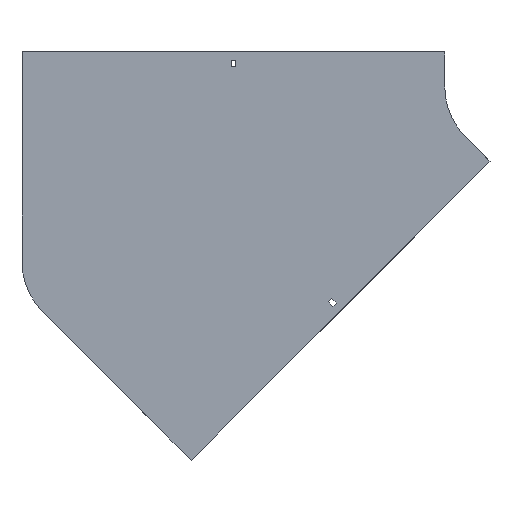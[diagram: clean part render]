
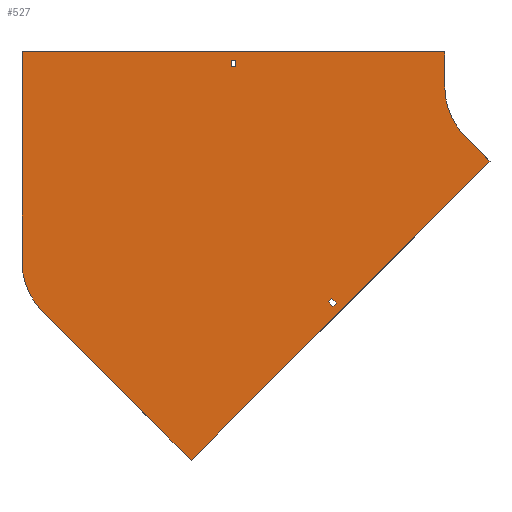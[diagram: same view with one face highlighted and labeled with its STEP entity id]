
A CAD part, front view. The second image highlights one B-rep face of the part: STEP entity #527.
In plain terms, the highlighted planar face has unit normal (0, -1, 0).
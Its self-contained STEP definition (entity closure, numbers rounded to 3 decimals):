
#15 = LINE ( 'NONE', #1210, #1456 ) ;
#23 = DIRECTION ( 'NONE',  ( 1., 0., 0. ) ) ;
#25 = DIRECTION ( 'NONE',  ( 0., 0., -1. ) ) ;
#28 = EDGE_CURVE ( 'NONE', #727, #86, #1574, .T. ) ;
#34 = EDGE_CURVE ( 'NONE', #213, #205, #937, .T. ) ;
#38 = VERTEX_POINT ( 'NONE', #185 ) ;
#43 = LINE ( 'NONE', #328, #209 ) ;
#63 = LINE ( 'NONE', #663, #1113 ) ;
#86 = VERTEX_POINT ( 'NONE', #1171 ) ;
#110 = ORIENTED_EDGE ( 'NONE', *, *, #243, .F. ) ;
#160 = ORIENTED_EDGE ( 'NONE', *, *, #1784, .F. ) ;
#168 = ORIENTED_EDGE ( 'NONE', *, *, #907, .F. ) ;
#185 = CARTESIAN_POINT ( 'NONE',  ( -35.355, 0., -106.066 ) ) ;
#202 = CARTESIAN_POINT ( 'NONE',  ( -398.75, 0., 38. ) ) ;
#205 = VERTEX_POINT ( 'NONE', #1333 ) ;
#209 = VECTOR ( 'NONE', #1269, 1000. ) ;
#213 = VERTEX_POINT ( 'NONE', #613 ) ;
#231 = DIRECTION ( 'NONE',  ( -1., 0., 0. ) ) ;
#243 = EDGE_CURVE ( 'NONE', #38, #787, #1041, .T. ) ;
#252 = DIRECTION ( 'NONE',  ( 0., 0., -1. ) ) ;
#288 = DIRECTION ( 'NONE',  ( -0.707, 0., -0.707 ) ) ;
#315 = CARTESIAN_POINT ( 'NONE',  ( -604., 0., -250.185 ) ) ;
#327 = CARTESIAN_POINT ( 'NONE',  ( -704., 0., -250.185 ) ) ;
#328 = CARTESIAN_POINT ( 'NONE',  ( -398.75, 0., 29. ) ) ;
#333 = VECTOR ( 'NONE', #25, 1000. ) ;
#353 = ORIENTED_EDGE ( 'NONE', *, *, #526, .F. ) ;
#360 = EDGE_CURVE ( 'NONE', #906, #455, #43, .T. ) ;
#363 = VERTEX_POINT ( 'NONE', #633 ) ;
#379 = FACE_OUTER_BOUND ( 'NONE', #1042, .T. ) ;
#390 = DIRECTION ( 'NONE',  ( 0.707, 0., -0.707 ) ) ;
#400 = CARTESIAN_POINT ( 'NONE',  ( 0., 0., 0. ) ) ;
#410 = LINE ( 'NONE', #844, #1019 ) ;
#428 = CARTESIAN_POINT ( 'NONE',  ( -405.25, 0., 38. ) ) ;
#429 = ORIENTED_EDGE ( 'NONE', *, *, #612, .F. ) ;
#455 = VERTEX_POINT ( 'NONE', #1278 ) ;
#480 = LINE ( 'NONE', #1685, #1487 ) ;
#489 = DIRECTION ( 'NONE',  ( -0.707, 0., 0.707 ) ) ;
#503 = EDGE_CURVE ( 'NONE', #455, #805, #1761, .T. ) ;
#523 = PLANE ( 'NONE',  #1833 ) ;
#526 = EDGE_CURVE ( 'NONE', #205, #1951, #1582, .T. ) ;
#527 = ADVANCED_FACE ( 'NONE', ( #854, #379, #1875 ), #523, .T. ) ;
#532 = VECTOR ( 'NONE', #1286, 1000. ) ;
#534 = LINE ( 'NONE', #1139, #1303 ) ;
#546 = CIRCLE ( 'NONE', #1425, 100. ) ;
#552 = DIRECTION ( 'NONE',  ( 1., 0., 0. ) ) ;
#573 = AXIS2_PLACEMENT_3D ( 'NONE', #400, #1731, #252 ) ;
#580 = ORIENTED_EDGE ( 'NONE', *, *, #28, .F. ) ;
#612 = EDGE_CURVE ( 'NONE', #1951, #38, #480, .T. ) ;
#613 = CARTESIAN_POINT ( 'NONE',  ( -100., 0., 50. ) ) ;
#619 = ORIENTED_EDGE ( 'NONE', *, *, #1078, .T. ) ;
#633 = CARTESIAN_POINT ( 'NONE',  ( -704., 0., -250.185 ) ) ;
#663 = CARTESIAN_POINT ( 'NONE',  ( -462.448, 0., -533.159 ) ) ;
#664 = ORIENTED_EDGE ( 'NONE', *, *, #360, .T. ) ;
#701 = LINE ( 'NONE', #1779, #532 ) ;
#712 = ORIENTED_EDGE ( 'NONE', *, *, #34, .F. ) ;
#727 = VERTEX_POINT ( 'NONE', #983 ) ;
#736 = EDGE_CURVE ( 'NONE', #1589, #1180, #534, .T. ) ;
#786 = VECTOR ( 'NONE', #552, 1000. ) ;
#787 = VERTEX_POINT ( 'NONE', #1684 ) ;
#805 = VERTEX_POINT ( 'NONE', #1384 ) ;
#812 = DIRECTION ( 'NONE',  ( -0.707, 0., 0.707 ) ) ;
#831 = LINE ( 'NONE', #428, #786 ) ;
#832 = EDGE_CURVE ( 'NONE', #1707, #213, #15, .T. ) ;
#844 = CARTESIAN_POINT ( 'NONE',  ( -405.25, 0., 29. ) ) ;
#854 = FACE_BOUND ( 'NONE', #862, .T. ) ;
#862 = EDGE_LOOP ( 'NONE', ( #619, #1184, #664, #1725 ) ) ;
#906 = VERTEX_POINT ( 'NONE', #202 ) ;
#907 = EDGE_CURVE ( 'NONE', #787, #948, #63, .T. ) ;
#932 = DIRECTION ( 'NONE',  ( 0., 0., 1. ) ) ;
#937 = LINE ( 'NONE', #1085, #333 ) ;
#948 = VERTEX_POINT ( 'NONE', #955 ) ;
#955 = CARTESIAN_POINT ( 'NONE',  ( -674.711, 0., -320.896 ) ) ;
#983 = CARTESIAN_POINT ( 'NONE',  ( -255.089, 0., -308.829 ) ) ;
#1010 = CARTESIAN_POINT ( 'NONE',  ( -259.685, 0., -313.425 ) ) ;
#1019 = VECTOR ( 'NONE', #1445, 1000. ) ;
#1029 = CARTESIAN_POINT ( 'NONE',  ( -405.25, 0., 38. ) ) ;
#1041 = LINE ( 'NONE', #1643, #1534 ) ;
#1042 = EDGE_LOOP ( 'NONE', ( #1735, #1600, #1892, #168, #110, #429, #353, #712 ) ) ;
#1078 = EDGE_CURVE ( 'NONE', #805, #1359, #410, .T. ) ;
#1085 = CARTESIAN_POINT ( 'NONE',  ( -100., 0., 50. ) ) ;
#1109 = VECTOR ( 'NONE', #231, 1000. ) ;
#1112 = ORIENTED_EDGE ( 'NONE', *, *, #1408, .F. ) ;
#1113 = VECTOR ( 'NONE', #812, 1000. ) ;
#1121 = EDGE_CURVE ( 'NONE', #948, #363, #546, .T. ) ;
#1139 = CARTESIAN_POINT ( 'NONE',  ( -266.049, 0., -307.061 ) ) ;
#1140 = DIRECTION ( 'NONE',  ( 0., 0., -1. ) ) ;
#1171 = CARTESIAN_POINT ( 'NONE',  ( -261.453, 0., -302.465 ) ) ;
#1180 = VERTEX_POINT ( 'NONE', #1682 ) ;
#1184 = ORIENTED_EDGE ( 'NONE', *, *, #1396, .T. ) ;
#1198 = EDGE_CURVE ( 'NONE', #363, #1707, #1799, .T. ) ;
#1210 = CARTESIAN_POINT ( 'NONE',  ( -704., 0., 50. ) ) ;
#1269 = DIRECTION ( 'NONE',  ( 0., 0., -1. ) ) ;
#1278 = CARTESIAN_POINT ( 'NONE',  ( -398.75, 0., 29. ) ) ;
#1283 = LINE ( 'NONE', #1010, #1730 ) ;
#1286 = DIRECTION ( 'NONE',  ( -0.707, 0., -0.707 ) ) ;
#1300 = CARTESIAN_POINT ( 'NONE',  ( -405.25, 0., 29. ) ) ;
#1303 = VECTOR ( 'NONE', #1946, 1000. ) ;
#1333 = CARTESIAN_POINT ( 'NONE',  ( -100., 0., 0. ) ) ;
#1359 = VERTEX_POINT ( 'NONE', #1029 ) ;
#1377 = CARTESIAN_POINT ( 'NONE',  ( -261.453, 0., -302.465 ) ) ;
#1384 = CARTESIAN_POINT ( 'NONE',  ( -405.25, 0., 29. ) ) ;
#1396 = EDGE_CURVE ( 'NONE', #1359, #906, #831, .T. ) ;
#1408 = EDGE_CURVE ( 'NONE', #86, #1589, #701, .T. ) ;
#1425 = AXIS2_PLACEMENT_3D ( 'NONE', #315, #1808, #1828 ) ;
#1427 = VECTOR ( 'NONE', #489, 1000. ) ;
#1445 = DIRECTION ( 'NONE',  ( 0., 0., 1. ) ) ;
#1451 = DIRECTION ( 'NONE',  ( 0., -1., 0. ) ) ;
#1456 = VECTOR ( 'NONE', #23, 1000. ) ;
#1483 = CARTESIAN_POINT ( 'NONE',  ( -266.049, 0., -307.061 ) ) ;
#1487 = VECTOR ( 'NONE', #390, 1000. ) ;
#1534 = VECTOR ( 'NONE', #288, 1000. ) ;
#1574 = LINE ( 'NONE', #1377, #1427 ) ;
#1582 = CIRCLE ( 'NONE', #573, 100. ) ;
#1589 = VERTEX_POINT ( 'NONE', #1483 ) ;
#1598 = ORIENTED_EDGE ( 'NONE', *, *, #736, .F. ) ;
#1600 = ORIENTED_EDGE ( 'NONE', *, *, #1198, .F. ) ;
#1607 = DIRECTION ( 'NONE',  ( 0.707, 0., 0.707 ) ) ;
#1609 = EDGE_LOOP ( 'NONE', ( #160, #1598, #1112, #580 ) ) ;
#1643 = CARTESIAN_POINT ( 'NONE',  ( -35.355, 0., -106.066 ) ) ;
#1682 = CARTESIAN_POINT ( 'NONE',  ( -259.685, 0., -313.425 ) ) ;
#1684 = CARTESIAN_POINT ( 'NONE',  ( -462.448, 0., -533.159 ) ) ;
#1685 = CARTESIAN_POINT ( 'NONE',  ( -70.711, 0., -70.711 ) ) ;
#1707 = VERTEX_POINT ( 'NONE', #1852 ) ;
#1725 = ORIENTED_EDGE ( 'NONE', *, *, #503, .T. ) ;
#1730 = VECTOR ( 'NONE', #1607, 1000. ) ;
#1731 = DIRECTION ( 'NONE',  ( 0., -1., 0. ) ) ;
#1735 = ORIENTED_EDGE ( 'NONE', *, *, #832, .F. ) ;
#1761 = LINE ( 'NONE', #1300, #1109 ) ;
#1779 = CARTESIAN_POINT ( 'NONE',  ( -266.049, 0., -307.061 ) ) ;
#1784 = EDGE_CURVE ( 'NONE', #1180, #727, #1283, .T. ) ;
#1786 = CARTESIAN_POINT ( 'NONE',  ( -70.711, 0., -70.711 ) ) ;
#1799 = LINE ( 'NONE', #327, #1837 ) ;
#1808 = DIRECTION ( 'NONE',  ( 0., 1., 0. ) ) ;
#1828 = DIRECTION ( 'NONE',  ( 0., 0., 1. ) ) ;
#1833 = AXIS2_PLACEMENT_3D ( 'NONE', #1886, #1451, #1140 ) ;
#1837 = VECTOR ( 'NONE', #932, 1000. ) ;
#1852 = CARTESIAN_POINT ( 'NONE',  ( -704., 0., 50. ) ) ;
#1875 = FACE_BOUND ( 'NONE', #1609, .T. ) ;
#1886 = CARTESIAN_POINT ( 'NONE',  ( 0., 0., 0. ) ) ;
#1892 = ORIENTED_EDGE ( 'NONE', *, *, #1121, .F. ) ;
#1946 = DIRECTION ( 'NONE',  ( 0.707, 0., -0.707 ) ) ;
#1951 = VERTEX_POINT ( 'NONE', #1786 ) ;
